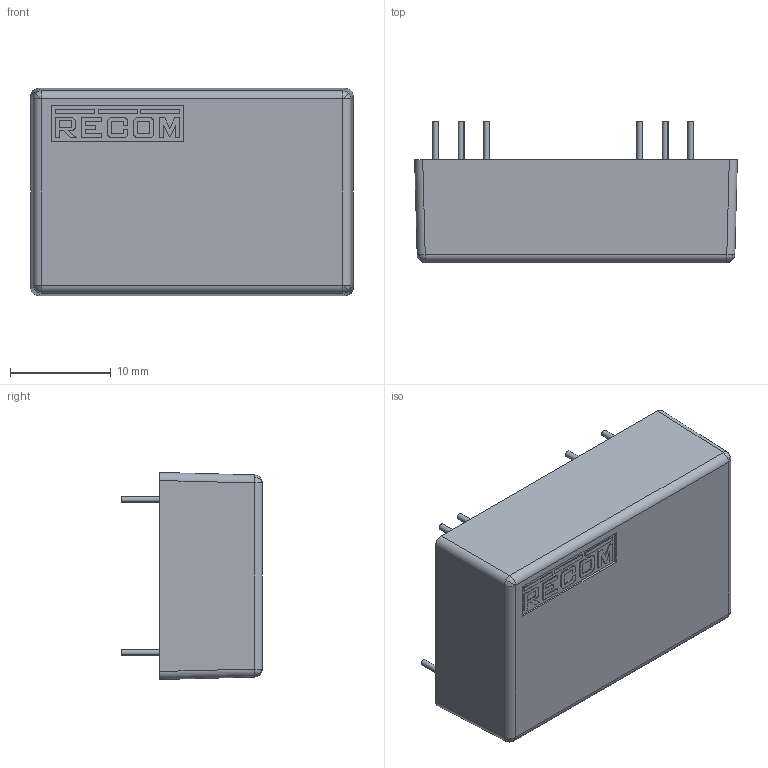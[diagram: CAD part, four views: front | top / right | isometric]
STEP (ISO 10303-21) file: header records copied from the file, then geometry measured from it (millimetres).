
FILE_DESCRIPTION (( 'STEP AP214' ), '1' );
FILE_NAME ('REC10K-RW.STP', '2025-10-01T07:00:39', ( '' ), ( '' ), 'SwSTEP 2.0', 'SolidWorks 2024', '' );
FILE_SCHEMA (( 'AUTOMOTIVE_DESIGN' ));
Length unit declared in the file: millimetre
Products named in the file (6): _____默认.STP; RCDE-48-XXX____1_默认.STP; REC3A-W-PCB_14_1_1_默认.STP; REC10K-RW.STP; REC10K-RW; REC10K-RW_默认.STP
Assembly tree (14 placements, depth 3):
  REC10K-RW
    REC10K-RW.STP
      REC10K-RW_默认.STP
      RCDE-48-XXX____1_默认.STP
      REC3A-W-PCB_14_1_1_默认.STP
      _____默认.STP  x10
Bounding box: 32.1 x 14 x 20.6 mm (x, y, z)
Volume: 2277.8 mm3; surface area: 6025.8 mm2
Topology: 23 solids, 23 shells, 426 faces, 1096 edges, 720 vertices
Faces by surface type: plane 256, cylinder 162, bspline 8
Entity records: 13738 total; most frequent: CARTESIAN_POINT 2057, ORIENTED_EDGE 1852, DIRECTION 1814, EDGE_CURVE 926, LINE 700, VECTOR 700, VERTEX_POINT 612, AXIS2_PLACEMENT_3D 557
